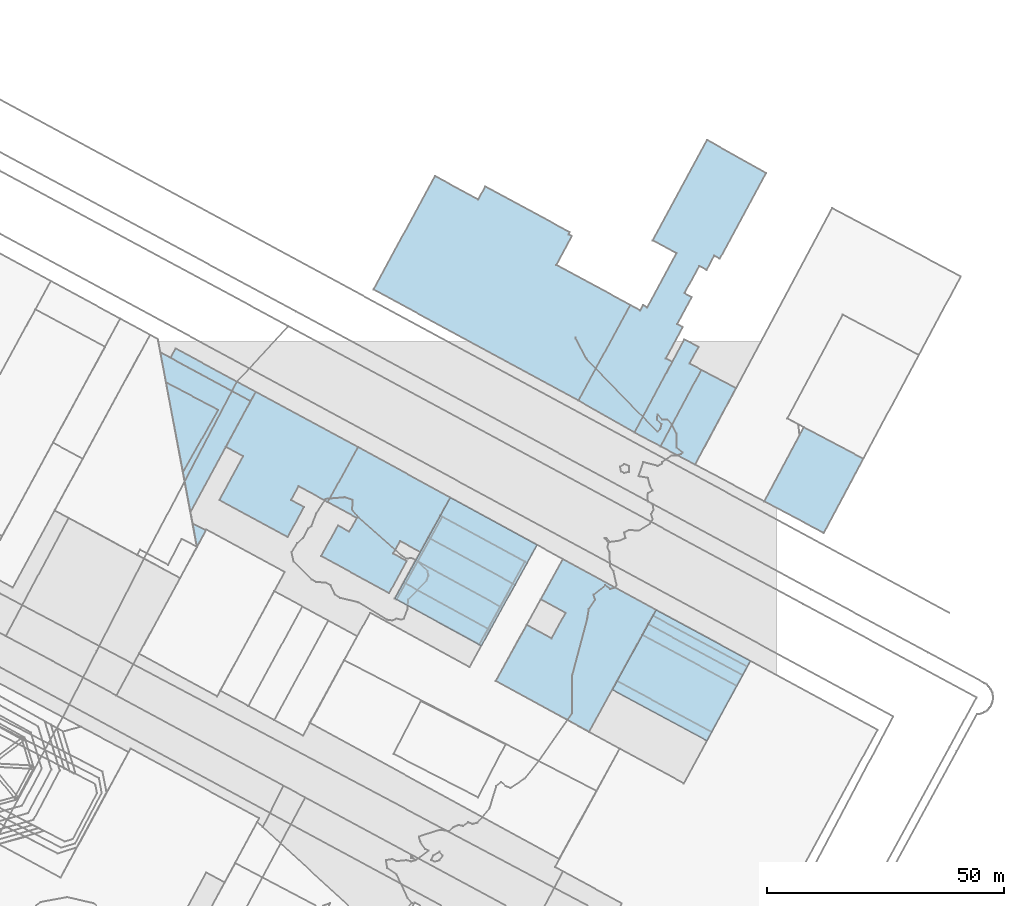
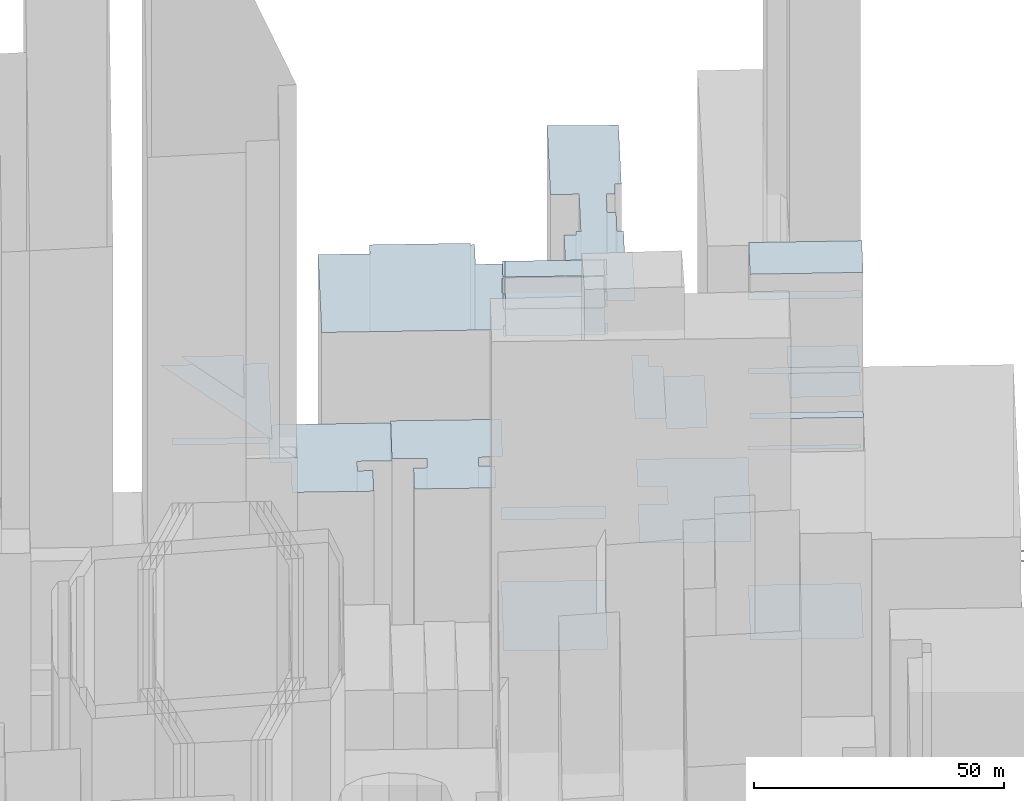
# Not in any storey, part 43 of 76: 31 roofs.
"""IFC2X3 model written with IfcOpenShell, lengths in metres."""

from ifc_helpers import new_model, si_unit, frame, origin_with_axes, place, context, subcontext, project, faceted_brep, element, save


model = new_model("IFC2X3")

# Units and contexts
model_context = context("Model", 3, precision=1e-05, world=origin_with_axes())
body_context = subcontext(model_context, "Body", "Model", "MODEL_VIEW")
ifc_project = project(units=[si_unit("AREAUNIT", "SQUARE_METRE"), si_unit("LENGTHUNIT", "METRE")], contexts=[model_context])

# Roofs
roof_1_placement = place(None, frame((313.0644675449, 307.8623711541, 19.1866417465), z_axis=(0.0, 0.0, 1.0), x_axis=(1.0, 0.0, 0.0)))
element("IfcRoof", 1, at=roof_1_placement, Name="Toiture 0", ShapeType="NOTDEFINED", context=body_context, shape_type="Brep", body=[
    faceted_brep([(6.5141444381, 11.8220445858, 36.5999984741), (0.0, 0.0, 36.5999984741), (19.658559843, -10.751216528, 36.5999984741), (33.8190454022, 14.9711235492, 36.5999984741), (14.1606600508, 25.7112014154, 36.5999984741), (9.4817474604, 17.2189943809, 36.5999984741), (14.7234881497, 14.349038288, 36.5999984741), (11.7557583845, 8.9631871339, 36.5999984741)], [[[0, 1, 2]], [[2, 3, 4]], [[4, 5, 6]], [[7, 0, 2]], [[2, 4, 6]], [[6, 7, 2]]]),
])
roof_2_placement = place(None, frame((337.6756915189, 306.0173396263, 18.6021443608), z_axis=(0.0, 0.0, 1.0), x_axis=(1.0, 0.0, 0.0)))
element("IfcRoof", 2, at=roof_2_placement, Name="Toiture 0", ShapeType="NOTDEFINED", context=body_context, shape_type="Brep", body=[
    faceted_brep([(9.2078214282, 16.816155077, 6.0), (0.0, 0.0, 6.0), (19.9288194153, -10.7591061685, 6.0), (29.0941508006, 6.0787837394, 6.0)], [[[0, 1, 2]], [[2, 3, 0]]]),
])
roof_3_placement = place(None, frame((337.6756915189, 306.0173396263, 18.6175268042), z_axis=(0.0, 0.0, 1.0), x_axis=(1.0, 0.0, 0.0)))
element("IfcRoof", 3, at=roof_3_placement, Name="Toiture 0", ShapeType="NOTDEFINED", context=body_context, shape_type="Brep", body=[
    faceted_brep([(0.9833137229, 1.8211215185, 60.0), (0.0, 0.0, 60.0), (19.9288194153, -10.7591061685, 60.0), (20.9205700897, -8.9378836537, 60.0)], [[[0, 1, 2]], [[2, 3, 0]]]),
])
roof_4_placement = place(None, frame((338.6590052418, 307.8384611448, 18.5825367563), z_axis=(0.0, 0.0, 1.0), x_axis=(1.0, 0.0, 0.0)))
element("IfcRoof", 4, at=roof_4_placement, Name="Toiture 0", ShapeType="NOTDEFINED", context=body_context, shape_type="Brep", body=[
    faceted_brep([(5.3058816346, 9.7429734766, 94.0), (0.0, 0.0, 94.0), (19.9372563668, -10.7590051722, 94.0), (25.2348095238, -1.0272163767, 94.0)], [[[0, 1, 2]], [[2, 3, 0]]]),
])
roof_5_placement = place(None, frame((369.7036563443, 345.7479637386, 18.6004102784), z_axis=(0.0, 0.0, 1.0), x_axis=(1.0, 0.0, 0.0)))
element("IfcRoof", 5, at=roof_5_placement, Name="Toiture 0", ShapeType="NOTDEFINED", context=body_context, shape_type="Brep", body=[
    faceted_brep([(8.3520704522, 15.6293873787, 30.0), (0.0, 0.0, 30.0), (12.5538989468, -6.6594085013, 30.0), (20.9058219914, 8.9810939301, 30.0)], [[[0, 1, 2]], [[2, 3, 0]]]),
])
roof_6_placement = place(None, frame((347.815184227, 357.3501845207, 19.4967408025), z_axis=(0.0, 0.0, 1.0), x_axis=(1.0, 0.0, 0.0)))
element("IfcRoof", 6, at=roof_6_placement, Name="Toiture 0", ShapeType="NOTDEFINED", context=body_context, shape_type="Brep", body=[
    faceted_brep([(8.6248078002, 16.13214132, 22.1000003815), (0.0, 0.0, 22.1000003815), (7.30458982, -3.8673156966, 22.1000003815), (15.9293867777, 12.2648342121, 22.1000003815)], [[[0, 1, 2]], [[2, 3, 0]]]),
])
roof_7_placement = place(None, frame((342.3281774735, 360.2616784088, 19.6845045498), z_axis=(0.0, 0.0, 1.0), x_axis=(1.0, 0.0, 0.0)))
element("IfcRoof", 7, at=roof_7_placement, Name="Toiture 0", ShapeType="NOTDEFINED", context=body_context, shape_type="Brep", body=[
    faceted_brep([(10.4999972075, 19.6511924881, 24.3999996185), (0.0, 0.0, 24.3999996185), (5.4870067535, -2.9114938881, 24.3999996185), (14.1118145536, 13.2206474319, 24.3999996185), (11.6146310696, 14.5460328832, 24.3999996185), (13.4982515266, 18.0651895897, 24.3999996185)], [[[0, 1, 2]], [[2, 3, 4]], [[4, 5, 0]], [[0, 2, 4]]]),
])
roof_8_placement = place(None, frame((291.7498532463, 325.277922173, 20.2810071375), z_axis=(0.0, 0.0, 1.0), x_axis=(1.0, 0.0, 0.0)))
element("IfcRoof", 8, at=roof_8_placement, Name="Toiture 0", ShapeType="NOTDEFINED", context=body_context, shape_type="Brep", body=[
    faceted_brep([(11.7137108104, 21.2750732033, 6.0), (0.0, 0.0, 6.0), (18.2821181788, -9.9901391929, 6.0), (29.9957941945, 11.2849631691, 6.0)], [[[0, 1, 2]], [[2, 3, 0]]]),
])
roof_9_placement = place(None, frame((296.5802961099, 333.0835325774, 20.3677468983), z_axis=(0.0, 0.0, 1.0), x_axis=(1.0, 0.0, 0.0)))
element("IfcRoof", 9, at=roof_9_placement, Name="Toiture 0", ShapeType="NOTDEFINED", context=body_context, shape_type="Brep", body=[
    faceted_brep([(2.6876256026, 4.7941587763, 91.0), (0.0, 0.0, 91.0), (17.4583642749, -9.5667304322, 91.0), (20.0861254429, -4.7066486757, 91.0)], [[[0, 1, 2]], [[2, 3, 0]]]),
])
roof_10_placement = place(None, frame((292.1322472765, 325.0603282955, 20.29910505), z_axis=(0.0, 0.0, 1.0), x_axis=(1.0, 0.0, 0.0)))
element("IfcRoof", 10, at=roof_10_placement, Name="Toiture 0", ShapeType="NOTDEFINED", context=body_context, shape_type="Brep", body=[
    faceted_brep([(9.6733115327, 17.4432428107, 83.0), (0.0, 0.0, 83.0), (17.4495487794, -9.5335370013, 83.0), (27.0802443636, 7.9425396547, 83.0)], [[[0, 1, 2]], [[2, 3, 0]]]),
])
roof_11_placement = place(None, frame((294.0094084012, 328.4128587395, 20.2723875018), z_axis=(0.0, 0.0, 1.0), x_axis=(1.0, 0.0, 0.0)))
element("IfcRoof", 11, at=roof_11_placement, Name="Toiture 0", ShapeType="NOTDEFINED", context=body_context, shape_type="Brep", body=[
    faceted_brep([(5.2585133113, 9.4648326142, 87.0), (0.0, 0.0, 87.0), (17.4333093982, -9.5892328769, 87.0), (22.6570131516, -0.0359748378, 87.0)], [[[0, 1, 2]], [[2, 3, 0]]]),
])
roof_12_placement = place(None, frame((296.1724525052, 333.3119322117, 20.3484595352), z_axis=(0.0, 0.0, 1.0), x_axis=(1.0, 0.0, 0.0)))
element("IfcRoof", 12, at=roof_12_placement, Name="Toiture 0", ShapeType="NOTDEFINED", context=body_context, shape_type="Brep", body=[
    faceted_brep([(2.6536065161, 4.8159671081, 91.0), (0.0, 0.0, 91.0), (0.4078436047, -0.2283996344, 91.0), (3.0954692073, 4.5657591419, 91.0)], [[[0, 1, 2]], [[2, 3, 0]]]),
])
roof_13_placement = place(None, frame((298.8260590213, 338.1278993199, 20.4512900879), z_axis=(0.0, 0.0, 1.0), x_axis=(1.0, 0.0, 0.0)))
element("IfcRoof", 13, at=roof_13_placement, Name="Toiture 0", ShapeType="NOTDEFINED", context=body_context, shape_type="Brep", body=[
    faceted_brep([(2.5462067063, 4.6148771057, 83.0), (0.0, 0.0, 83.0), (0.4418626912, -0.2502079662, 83.0), (2.9794997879, 4.3756717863, 83.0)], [[[0, 1, 2]], [[2, 3, 0]]]),
])
roof_14_placement = place(None, frame((301.3722657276, 342.7427764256, 20.3932714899), z_axis=(0.0, 0.0, 1.0), x_axis=(1.0, 0.0, 0.0)))
element("IfcRoof", 14, at=roof_14_placement, Name="Toiture 0", ShapeType="NOTDEFINED", context=body_context, shape_type="Brep", body=[
    faceted_brep([(2.0912983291, 3.8102189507, 24.0), (0.0, 0.0, 24.0), (18.2820896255, -9.9901152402, 24.0), (20.3733817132, -6.1798910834, 24.0)], [[[0, 1, 2]], [[2, 3, 0]]]),
])
roof_15_placement = place(None, frame((287.2771431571, 390.440545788, 19.5504613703), z_axis=(0.0, 0.0, 1.0), x_axis=(1.0, 0.0, 0.0)))
element("IfcRoof", 15, at=roof_15_placement, Name="Toiture 0", ShapeType="NOTDEFINED", context=body_context, shape_type="Brep", body=[
    faceted_brep([(12.9658813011, 23.9208852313, 46.7000007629), (0.0, 0.0, 46.7000007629), (43.2307270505, -23.4442358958, 46.7000007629), (54.1635554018, -3.2662126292, 46.7000007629), (38.558435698, 5.1896020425, 46.7000007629), (41.8392282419, 11.2341347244, 46.7000007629), (41.1511824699, 11.603598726, 46.7000007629), (41.4073966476, 12.0728777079, 46.7000007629), (23.5851064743, 21.7352532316, 46.7000007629), (22.0893707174, 18.9755783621, 46.7000007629)], [[[0, 1, 2]], [[2, 3, 4]], [[4, 5, 6]], [[6, 7, 8]], [[9, 0, 2]], [[4, 6, 8]], [[8, 9, 2]], [[2, 4, 8]]]),
])
roof_16_placement = place(None, frame((330.5078702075, 366.9963098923, 19.4574403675), z_axis=(0.0, 0.0, 1.0), x_axis=(1.0, 0.0, 0.0)))
element("IfcRoof", 16, at=roof_16_placement, Name="Toiture 0", ShapeType="NOTDEFINED", context=body_context, shape_type="Brep", body=[
    faceted_brep([(10.9328283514, 20.1780232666, 53.5999984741), (0.0, 0.0, 53.5999984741), (11.820307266, -6.7346314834, 53.5999984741), (19.7924457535, 8.1797535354, 53.5999984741), (18.4247873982, 8.9187760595, 53.5999984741), (22.0029504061, 15.5218964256, 53.5999984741), (20.8307096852, 16.1521722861, 53.5999984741), (23.9048809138, 21.8168325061, 53.5999984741), (22.3588177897, 22.6536963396, 53.5999984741), (25.4824619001, 28.4188540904, 53.5999984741), (27.0285242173, 27.5819909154, 53.5999984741), (28.6399501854, 30.5539667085, 53.5999984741), (29.8037492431, 29.9235937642, 53.5999984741), (39.5792805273, 47.9898524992, 53.5999984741), (27.1227912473, 54.9945837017, 53.5999984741), (15.6529613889, 33.8221759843, 53.5999984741), (14.5094742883, 19.6645705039, 53.5999984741), (13.6345794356, 20.1317770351, 53.5999984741), (13.0395606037, 19.036824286, 53.5999984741), (20.6989844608, 31.0831847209, 53.5999984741)], [[[0, 1, 2]], [[2, 3, 4]], [[4, 5, 6]], [[6, 7, 8]], [[9, 10, 11]], [[11, 12, 13]], [[13, 14, 15]], [[16, 17, 18]], [[18, 0, 2]], [[2, 4, 6]], [[9, 11, 13]], [[13, 15, 19]], [[16, 18, 2]], [[2, 6, 8]], [[9, 13, 19]], [[19, 16, 2]], [[8, 9, 19]], [[19, 2, 8]]]),
])
roof_17_placement = place(None, frame((244.4280234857, 376.0307569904, 22.4522062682), z_axis=(0.0, 0.0, 1.0), x_axis=(1.0, 0.0, 0.0)))
element("IfcRoof", 17, at=roof_17_placement, Name="Toiture 0", ShapeType="NOTDEFINED", context=body_context, shape_type="Brep", body=[
    faceted_brep([(1.0744890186, 1.9664991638, 40.0), (0.0, 0.0, 40.0), (16.9132443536, -9.1624091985, 40.0), (17.9876011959, -7.1848068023, 40.0)], [[[0, 1, 2]], [[2, 3, 0]]]),
])
roof_18_placement = place(None, frame((242.3300029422, 377.1498806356, 22.0498553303), z_axis=(0.0, 0.0, 1.0), x_axis=(1.0, 0.0, 0.0)))
element("IfcRoof", 18, at=roof_18_placement, Name="Toiture 0", ShapeType="NOTDEFINED", context=body_context, shape_type="Brep", body=[
    faceted_brep([(19.0112648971, -10.2815328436, 60.0), (0.0, 0.0, 60.0), (1.1962854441, -6.3254728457, 60.0), (6.3508708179, -33.6325728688, 60.0)], [[[0, 1, 2]], [[2, 3, 0]]]),
])
roof_19_placement = place(None, frame((243.5262883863, 370.8244077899, 22.5439694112), z_axis=(0.0, 0.0, 1.0), x_axis=(1.0, 0.0, 0.0)))
element("IfcRoof", 19, at=roof_19_placement, Name="Toiture 0", ShapeType="NOTDEFINED", context=body_context, shape_type="Brep", body=[
    faceted_brep([(10.9734042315, -5.7787257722, 65.0), (0.0, 0.0, 65.0), (3.5714703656, -18.9322105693, 65.0)], [[[0, 1, 2]]]),
])
roof_20_placement = place(None, frame((254.7632851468, 346.0194741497, 19.7596316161), z_axis=(0.0, 0.0, 1.0), x_axis=(1.0, 0.0, 0.0)))
element("IfcRoof", 20, at=roof_20_placement, Name="Toiture 0", ShapeType="NOTDEFINED", context=body_context, shape_type="Brep", body=[
    faceted_brep([(5.0248078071, 9.2400392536, 45.7000007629), (0.0, 0.0, 45.7000007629), (14.39900645, -7.8149674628, 45.7000007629), (17.8285654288, -1.4911744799, 45.7000007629), (15.1187039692, -0.0239066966, 45.7000007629), (16.7053721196, 2.9033513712, 45.7000007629), (22.8641716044, -0.4333637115, 45.7000007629), (29.2543177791, 11.1651612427, 45.7000007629), (7.6523395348, 22.8264760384, 45.7000007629), (1.3634529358, 11.2291484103, 45.7000007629)], [[[0, 1, 2]], [[2, 3, 4]], [[5, 6, 7]], [[7, 8, 9]], [[0, 2, 4]], [[5, 7, 9]], [[0, 4, 5]], [[5, 9, 0]]]),
])
roof_21_placement = place(None, frame((276.2236412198, 334.2010560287, 19.6540468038), z_axis=(0.0, 0.0, 1.0), x_axis=(1.0, 0.0, 0.0)))
element("IfcRoof", 21, at=roof_21_placement, Name="Toiture 0", ShapeType="NOTDEFINED", context=body_context, shape_type="Brep", body=[
    faceted_brep([(3.554736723, 6.4473781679, 46.2999992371), (0.0, 0.0, 46.2999992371), (14.3402296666, -7.8378155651, 46.2999992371), (18.0600146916, -1.0665434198, 46.2999992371), (15.1800483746, 0.5097591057, 46.2999992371), (16.6432091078, 3.1691298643, 46.2999992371), (20.9078444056, 0.8428913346, 46.2999992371), (27.2399228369, 12.3519393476, 46.2999992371), (7.7939617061, 22.9835793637, 46.2999992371), (1.4038155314, 11.3850544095, 46.2999992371), (5.9419365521, 5.1428922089, 46.2999992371), (7.5291182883, 8.0257498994, 46.2999992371)], [[[0, 1, 2]], [[2, 3, 4]], [[5, 6, 7]], [[7, 8, 9]], [[10, 0, 2]], [[5, 7, 9]], [[11, 10, 2]], [[5, 9, 11]], [[11, 2, 4]], [[4, 5, 11]]]),
])
roof_22_placement = place(None, frame((249.1568769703, 341.0581442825, 21.493715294), z_axis=(0.0, 0.0, 1.0), x_axis=(1.0, 0.0, 0.0)))
element("IfcRoof", 22, at=roof_22_placement, Name="Toiture 0", ShapeType="NOTDEFINED", context=body_context, shape_type="Brep", body=[
    faceted_brep([(2.7518015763, -1.444582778, 60.0), (0.0, 0.0, 60.0), (0.8846148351, -4.9302132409, 60.0)], [[[0, 1, 2]]]),
])
roof_23_placement = place(None, frame((309.5817960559, 315.5267912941, 20.5242060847), z_axis=(0.0, 0.0, 1.0), x_axis=(1.0, 0.0, 0.0)))
element("IfcRoof", 23, at=roof_23_placement, Name="Toiture 0", ShapeType="NOTDEFINED", context=body_context, shape_type="Brep", body=[
    faceted_brep([(1.8609217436, 3.2968345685, 83.0), (0.0, 0.0, 83.0), (0.4501753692, -0.239008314, 83.0), (2.2853885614, 3.0908338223, 83.0)], [[[0, 1, 2]], [[2, 3, 0]]]),
])
roof_24_placement = place(None, frame((343.9648868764, 317.5814346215, 18.5825367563), z_axis=(0.0, 0.0, 1.0), x_axis=(1.0, 0.0, 0.0)))
element("IfcRoof", 24, at=roof_24_placement, Name="Toiture 0", ShapeType="NOTDEFINED", context=body_context, shape_type="Brep", body=[
    faceted_brep([(1.2230342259, 2.2569030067, 80.0), (0.0, 0.0, 80.0), (19.9289278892, -10.7701898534, 80.0), (21.1603982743, -8.513185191, 80.0)], [[[0, 1, 2]], [[2, 3, 0]]]),
])
roof_25_placement = place(None, frame((345.1879211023, 319.8383376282, 18.6172280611), z_axis=(0.0, 0.0, 1.0), x_axis=(1.0, 0.0, 0.0)))
element("IfcRoof", 25, at=roof_25_placement, Name="Toiture 0", ShapeType="NOTDEFINED", context=body_context, shape_type="Brep", body=[
    faceted_brep([(1.0344684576, 1.777309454, 60.0), (0.0, 0.0, 60.0), (19.9373640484, -10.7700881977, 60.0), (20.9208000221, -8.9600636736, 60.0)], [[[0, 1, 2]], [[2, 3, 0]]]),
])
roof_26_placement = place(None, frame((346.2223895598, 321.6156470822, 18.6021443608), z_axis=(0.0, 0.0, 1.0), x_axis=(1.0, 0.0, 0.0)))
element("IfcRoof", 26, at=roof_26_placement, Name="Toiture 0", ShapeType="NOTDEFINED", context=body_context, shape_type="Brep", body=[
    faceted_brep([(0.6611233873, 1.2178476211, 40.0), (0.0, 0.0, 40.0), (19.8863315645, -10.7373731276, 40.0), (20.5474527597, -9.5195237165, 40.0)], [[[0, 1, 2]], [[2, 3, 0]]]),
])
roof_27_placement = place(None, frame((316.6664215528, 328.3768839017, 20.4318162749), z_axis=(0.0, 0.0, 1.0), x_axis=(1.0, 0.0, 0.0)))
element("IfcRoof", 27, at=roof_27_placement, Name="Toiture 0", ShapeType="NOTDEFINED", context=body_context, shape_type="Brep", body=[
    faceted_brep([(2.5460700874, 4.6259840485, 83.0), (0.0, 0.0, 83.0), (0.4417346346, -0.2391061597, 83.0), (2.9879338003, 4.3757772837, 83.0)], [[[0, 1, 2]], [[2, 3, 0]]]),
])
roof_28_placement = place(None, frame((311.4427177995, 318.8236258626, 20.4862365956), z_axis=(0.0, 0.0, 1.0), x_axis=(1.0, 0.0, 0.0)))
element("IfcRoof", 28, at=roof_28_placement, Name="Toiture 0", ShapeType="NOTDEFINED", context=body_context, shape_type="Brep", body=[
    faceted_brep([(2.5959425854, 4.6931762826, 87.0), (0.0, 0.0, 87.0), (0.4244668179, -0.2060007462, 87.0), (3.003658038, 4.4758783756, 87.0)], [[[0, 1, 2]], [[2, 3, 0]]]),
])
roof_29_placement = place(None, frame((314.0386603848, 323.5168021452, 20.4684876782), z_axis=(0.0, 0.0, 1.0), x_axis=(1.0, 0.0, 0.0)))
element("IfcRoof", 29, at=roof_29_placement, Name="Toiture 0", ShapeType="NOTDEFINED", context=body_context, shape_type="Brep", body=[
    faceted_brep([(2.6277611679, 4.8600817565, 91.0), (0.0, 0.0, 91.0), (0.4077154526, -0.217297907, 91.0), (3.0694958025, 4.6209755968, 91.0)], [[[0, 1, 2]], [[2, 3, 0]]]),
])
roof_30_placement = place(None, frame((293.5849426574, 328.6188604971, 20.2483066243), z_axis=(0.0, 0.0, 1.0), x_axis=(1.0, 0.0, 0.0)))
element("IfcRoof", 30, at=roof_30_placement, Name="Toiture 0", ShapeType="NOTDEFINED", context=body_context, shape_type="Brep", body=[
    faceted_brep([(2.5875098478, 4.6930717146, 87.0), (0.0, 0.0, 87.0), (0.4244657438, -0.2060017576, 87.0), (2.9953534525, 4.4646720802, 87.0)], [[[0, 1, 2]], [[2, 3, 0]]]),
])
roof_31_placement = place(None, frame((291.7498532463, 325.277922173, 20.2483066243), z_axis=(0.0, 0.0, 1.0), x_axis=(1.0, 0.0, 0.0)))
element("IfcRoof", 31, at=roof_31_placement, Name="Toiture 0", ShapeType="NOTDEFINED", context=body_context, shape_type="Brep", body=[
    faceted_brep([(1.8350894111, 3.3409383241, 83.0), (0.0, 0.0, 83.0), (0.3823940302, -0.2175938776, 83.0), (2.2595551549, 3.1349365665, 83.0)], [[[0, 1, 2]], [[2, 3, 0]]]),
])

save(model, "model.ifc")
